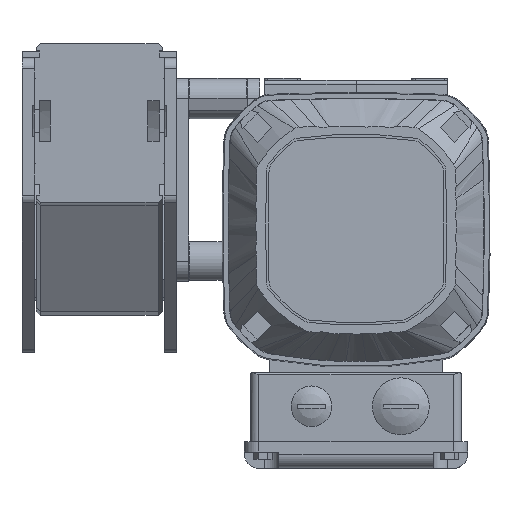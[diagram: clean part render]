
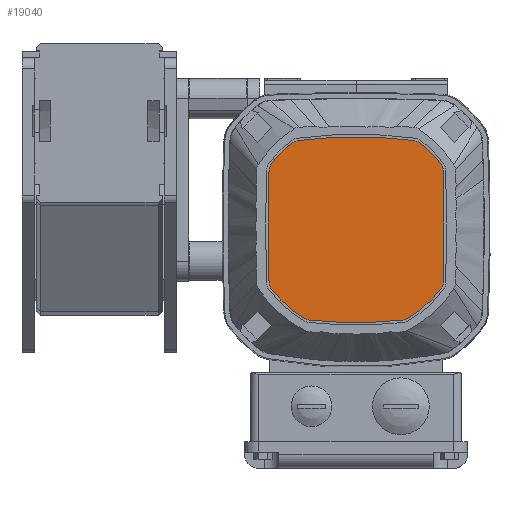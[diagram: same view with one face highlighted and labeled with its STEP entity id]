
A CAD part, left-side view. The second image highlights one B-rep face of the part: STEP entity #19040.
In plain terms, the highlighted planar face has unit normal (-1, 0, 0).
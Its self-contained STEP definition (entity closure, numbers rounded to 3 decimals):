
#910=PLANE('',#21222);
#1887=FACE_OUTER_BOUND('',#3006,.T.);
#3006=EDGE_LOOP('',(#17301,#17302,#17303,#17304,#17305,#17306,#17307,#17308,
#17309,#17310,#17311,#17312,#17313,#17314,#17315,#17316));
#3322=CIRCLE('',#19899,212.8);
#3325=CIRCLE('',#19903,209.8);
#3995=CIRCLE('',#21195,4.8);
#3996=CIRCLE('',#21197,51.8);
#3997=CIRCLE('',#21199,4.8);
#3998=CIRCLE('',#21201,1047.2);
#3999=CIRCLE('',#21203,4.8);
#4000=CIRCLE('',#21205,51.8);
#4001=CIRCLE('',#21207,4.8);
#4002=CIRCLE('',#21209,4.8);
#4003=CIRCLE('',#21211,51.8);
#4004=CIRCLE('',#21213,4.8);
#4005=CIRCLE('',#21215,1047.2);
#4006=CIRCLE('',#21217,4.8);
#4007=CIRCLE('',#21219,51.8);
#4008=CIRCLE('',#21221,4.8);
#7970=VERTEX_POINT('',#28569);
#7971=VERTEX_POINT('',#28570);
#7976=VERTEX_POINT('',#28581);
#7977=VERTEX_POINT('',#28583);
#9203=VERTEX_POINT('',#34842);
#9204=VERTEX_POINT('',#34846);
#9205=VERTEX_POINT('',#34850);
#9206=VERTEX_POINT('',#34854);
#9207=VERTEX_POINT('',#34858);
#9208=VERTEX_POINT('',#34862);
#9209=VERTEX_POINT('',#34868);
#9210=VERTEX_POINT('',#34872);
#9211=VERTEX_POINT('',#34876);
#9212=VERTEX_POINT('',#34880);
#9213=VERTEX_POINT('',#34884);
#9214=VERTEX_POINT('',#34888);
#10070=EDGE_CURVE('',#7970,#7971,#3322,.T.);
#10076=EDGE_CURVE('',#7976,#7977,#3325,.T.);
#11918=EDGE_CURVE('',#9203,#7970,#3995,.T.);
#11920=EDGE_CURVE('',#9204,#9203,#3996,.T.);
#11922=EDGE_CURVE('',#9205,#9204,#3997,.T.);
#11924=EDGE_CURVE('',#9206,#9205,#3998,.T.);
#11926=EDGE_CURVE('',#9207,#9206,#3999,.T.);
#11928=EDGE_CURVE('',#9208,#9207,#4000,.T.);
#11929=EDGE_CURVE('',#7977,#9208,#4001,.T.);
#11931=EDGE_CURVE('',#9209,#7976,#4002,.T.);
#11933=EDGE_CURVE('',#9210,#9209,#4003,.T.);
#11935=EDGE_CURVE('',#9211,#9210,#4004,.T.);
#11937=EDGE_CURVE('',#9212,#9211,#4005,.T.);
#11939=EDGE_CURVE('',#9213,#9212,#4006,.T.);
#11941=EDGE_CURVE('',#9214,#9213,#4007,.T.);
#11942=EDGE_CURVE('',#7971,#9214,#4008,.T.);
#17301=ORIENTED_EDGE('',*,*,#11941,.F.);
#17302=ORIENTED_EDGE('',*,*,#11942,.F.);
#17303=ORIENTED_EDGE('',*,*,#10070,.F.);
#17304=ORIENTED_EDGE('',*,*,#11918,.F.);
#17305=ORIENTED_EDGE('',*,*,#11920,.F.);
#17306=ORIENTED_EDGE('',*,*,#11922,.F.);
#17307=ORIENTED_EDGE('',*,*,#11924,.F.);
#17308=ORIENTED_EDGE('',*,*,#11926,.F.);
#17309=ORIENTED_EDGE('',*,*,#11928,.F.);
#17310=ORIENTED_EDGE('',*,*,#11929,.F.);
#17311=ORIENTED_EDGE('',*,*,#10076,.F.);
#17312=ORIENTED_EDGE('',*,*,#11931,.F.);
#17313=ORIENTED_EDGE('',*,*,#11933,.F.);
#17314=ORIENTED_EDGE('',*,*,#11935,.F.);
#17315=ORIENTED_EDGE('',*,*,#11937,.F.);
#17316=ORIENTED_EDGE('',*,*,#11939,.F.);
#19040=ADVANCED_FACE('',(#1887),#910,.T.);
#19899=AXIS2_PLACEMENT_3D('',#28571,#22882,#22883);
#19903=AXIS2_PLACEMENT_3D('',#28584,#22893,#22894);
#21195=AXIS2_PLACEMENT_3D('',#34844,#26524,#26525);
#21197=AXIS2_PLACEMENT_3D('',#34848,#26529,#26530);
#21199=AXIS2_PLACEMENT_3D('',#34852,#26534,#26535);
#21201=AXIS2_PLACEMENT_3D('',#34856,#26539,#26540);
#21203=AXIS2_PLACEMENT_3D('',#34860,#26544,#26545);
#21205=AXIS2_PLACEMENT_3D('',#34864,#26549,#26550);
#21207=AXIS2_PLACEMENT_3D('',#34866,#26553,#26554);
#21209=AXIS2_PLACEMENT_3D('',#34870,#26558,#26559);
#21211=AXIS2_PLACEMENT_3D('',#34874,#26563,#26564);
#21213=AXIS2_PLACEMENT_3D('',#34878,#26568,#26569);
#21215=AXIS2_PLACEMENT_3D('',#34882,#26573,#26574);
#21217=AXIS2_PLACEMENT_3D('',#34886,#26578,#26579);
#21219=AXIS2_PLACEMENT_3D('',#34890,#26583,#26584);
#21221=AXIS2_PLACEMENT_3D('',#34892,#26587,#26588);
#21222=AXIS2_PLACEMENT_3D('',#34893,#26589,#26590);
#22882=DIRECTION('center_axis',(1.,0.,0.));
#22883=DIRECTION('ref_axis',(0.,0.,
1.));
#22893=DIRECTION('center_axis',(1.,0.,0.));
#22894=DIRECTION('ref_axis',(0.,0.,
1.));
#26524=DIRECTION('center_axis',(1.,0.,0.));
#26525=DIRECTION('ref_axis',(0.,0.,
1.));
#26529=DIRECTION('center_axis',(1.,0.,0.));
#26530=DIRECTION('ref_axis',(0.,0.,
1.));
#26534=DIRECTION('center_axis',(1.,0.,0.));
#26535=DIRECTION('ref_axis',(0.,0.,
1.));
#26539=DIRECTION('center_axis',(1.,0.,0.));
#26540=DIRECTION('ref_axis',(0.,0.,
1.));
#26544=DIRECTION('center_axis',(1.,0.,0.));
#26545=DIRECTION('ref_axis',(0.,0.,
1.));
#26549=DIRECTION('center_axis',(1.,0.,0.));
#26550=DIRECTION('ref_axis',(0.,0.,
1.));
#26553=DIRECTION('center_axis',(1.,0.,0.));
#26554=DIRECTION('ref_axis',(0.,0.,
1.));
#26558=DIRECTION('center_axis',(1.,0.,0.));
#26559=DIRECTION('ref_axis',(0.,0.,
1.));
#26563=DIRECTION('center_axis',(1.,0.,0.));
#26564=DIRECTION('ref_axis',(0.,0.,
1.));
#26568=DIRECTION('center_axis',(1.,0.,0.));
#26569=DIRECTION('ref_axis',(0.,0.,
1.));
#26573=DIRECTION('center_axis',(1.,0.,0.));
#26574=DIRECTION('ref_axis',(0.,0.,
1.));
#26578=DIRECTION('center_axis',(1.,0.,0.));
#26579=DIRECTION('ref_axis',(0.,0.,
1.));
#26583=DIRECTION('center_axis',(1.,0.,0.));
#26584=DIRECTION('ref_axis',(0.,0.,
1.));
#26587=DIRECTION('center_axis',(1.,0.,0.));
#26588=DIRECTION('ref_axis',(0.,0.,
1.));
#26589=DIRECTION('center_axis',(-1.,0.,0.));
#26590=DIRECTION('ref_axis',(0.,-1.,0.));
#28569=CARTESIAN_POINT('',(-283.2,-22.984,-69.055));
#28570=CARTESIAN_POINT('',(-283.2,22.984,-69.055));
#28571=CARTESIAN_POINT('Origin',(-283.2,0.,
142.5));
#28581=CARTESIAN_POINT('',(-283.2,28.942,19.294));
#28583=CARTESIAN_POINT('',(-283.2,-28.942,19.294));
#28584=CARTESIAN_POINT('Origin',(-283.2,0.,
-188.5));
#34842=CARTESIAN_POINT('',(-283.2,-24.76,-68.499));
#34844=CARTESIAN_POINT('Origin',(-283.2,-22.465,-64.283));
#34846=CARTESIAN_POINT('',(-283.2,-41.978,-53.349));
#34848=CARTESIAN_POINT('Origin',(-283.2,0.,-23.));
#34850=CARTESIAN_POINT('',(-283.2,-42.886,-50.664));
#34852=CARTESIAN_POINT('Origin',(-283.2,-38.088,-50.537));
#34854=CARTESIAN_POINT('',(-283.2,-42.886,4.664));
#34856=CARTESIAN_POINT('Origin',(-283.2,1003.948,-23.));
#34858=CARTESIAN_POINT('',(-283.2,-41.978,7.349));
#34860=CARTESIAN_POINT('Origin',(-283.2,-38.088,4.537));
#34862=CARTESIAN_POINT('',(-283.2,-31.168,18.374));
#34864=CARTESIAN_POINT('Origin',(-283.2,0.,-23.));
#34866=CARTESIAN_POINT('Origin',(-283.2,-28.28,14.54));
#34868=CARTESIAN_POINT('',(-283.2,31.168,18.374));
#34870=CARTESIAN_POINT('Origin',(-283.2,28.28,14.54));
#34872=CARTESIAN_POINT('',(-283.2,41.978,7.349));
#34874=CARTESIAN_POINT('Origin',(-283.2,0.,-23.));
#34876=CARTESIAN_POINT('',(-283.2,42.886,4.664));
#34878=CARTESIAN_POINT('Origin',(-283.2,38.088,4.537));
#34880=CARTESIAN_POINT('',(-283.2,42.886,-50.664));
#34882=CARTESIAN_POINT('Origin',(-283.2,-1003.948,-23.));
#34884=CARTESIAN_POINT('',(-283.2,41.978,-53.349));
#34886=CARTESIAN_POINT('Origin',(-283.2,38.088,-50.537));
#34888=CARTESIAN_POINT('',(-283.2,24.76,-68.499));
#34890=CARTESIAN_POINT('Origin',(-283.2,0.,-23.));
#34892=CARTESIAN_POINT('Origin',(-283.2,22.465,-64.283));
#34893=CARTESIAN_POINT('Origin',(-283.2,21.966,-9.09));
